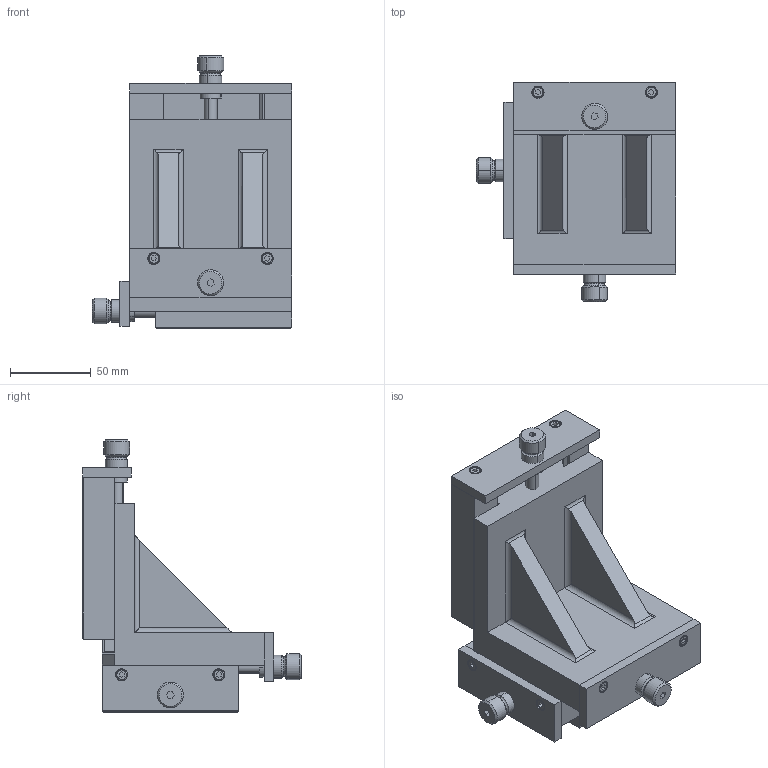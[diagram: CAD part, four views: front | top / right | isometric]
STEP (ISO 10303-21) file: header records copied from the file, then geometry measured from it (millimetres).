
FILE_DESCRIPTION(('STEP AP214'),'1');
FILE_NAME('tmp0.stp','2020-10-08T14:18:24',(' '),(' '),'Spatial InterOp 3D',' ',' ');
FILE_SCHEMA(('automotive_design'));
Length unit declared in the file: millimetre
Products named in the file (19): C100A_StepAP214|NONE#402.820.00;NONE; C100A_StepAP214|NONE#402.825.00;NONE; C100A_StepAP214|NONE#402.815.00;NONE; C100A_StepAP214|NONE#402.812.00;NONE; C100A_StepAP214|NONE#DIN_912;NONE; C100A_StepAP214|NONE#402.813.00;NONE; C100A_StepAP214|NONE#402.811.00;NONE; C100A_StepAP214|NONE#402.824.00;NONE; C100A_StepAP214|NONE#402.816.00;NONE; C100A_StepAP214|NONE#402.818.00;NONE
Bounding box: 123.03 x 135.15 x 168 mm (x, y, z)
Volume: 771619.9 mm3; surface area: 184957.7 mm2
Topology: 19 solids, 19 shells, 477 faces, 1129 edges, 712 vertices
Faces by surface type: plane 227, cylinder 176, cone 50, torus 24
Entity records: 18800 total; most frequent: CARTESIAN_POINT 3349, DIRECTION 2399, ORIENTED_EDGE 2218, EDGE_CURVE 1109, AXIS2_PLACEMENT_3D 860, VERTEX_POINT 712, LINE 679, VECTOR 679
